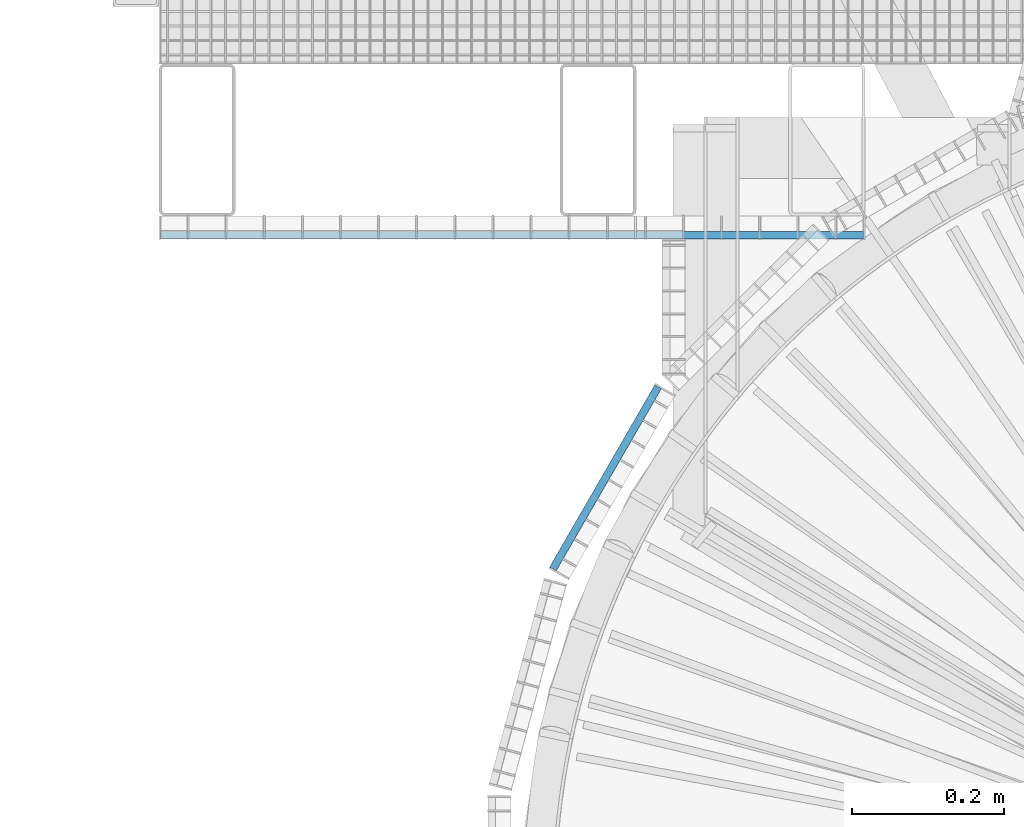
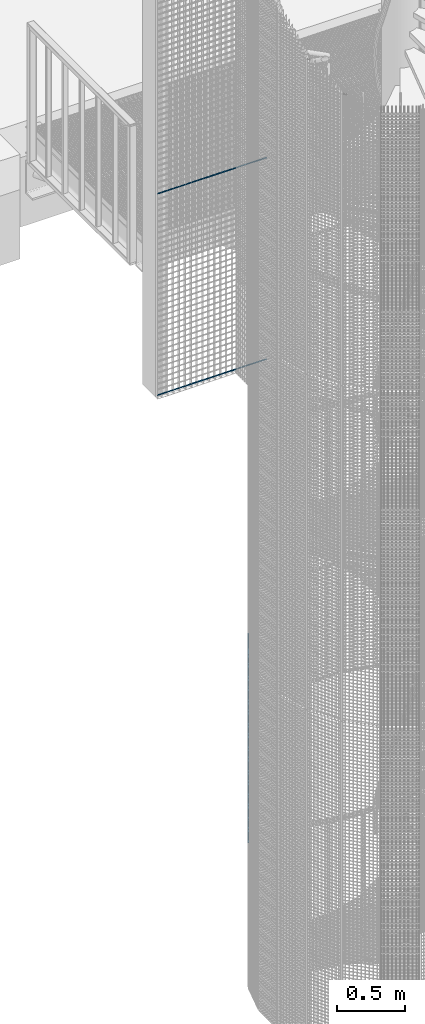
# One storey, part 216 of 1183: 59 beams, 2 elements without a shape of their own.
"""IFC2X3 building model written with IfcOpenShell, lengths in millimetres."""

from ifc_helpers import new_model, si_unit, frame, origin_with_axes, origin_2d_with_axis, place, context, subcontext, project, spatial, rectangle, extrude, material, type_object, element, aggregate, save


model = new_model("IFC2X3")

# Units and contexts
model_context = context("Model", 3, precision=1e-05, world=origin_with_axes())
body_context = subcontext(model_context, "Body", "Model", "MODEL_VIEW")
ifc_project = project(units=[si_unit("LENGTHUNIT", "METRE", prefix="MILLI"), si_unit("AREAUNIT", "SQUARE_METRE"), si_unit("VOLUMEUNIT", "CUBIC_METRE"), si_unit("MASSUNIT", "GRAM", prefix="KILO"), si_unit("TIMEUNIT", "SECOND"), si_unit("PLANEANGLEUNIT", "RADIAN"), si_unit("SOLIDANGLEUNIT", "STERADIAN"), si_unit("THERMODYNAMICTEMPERATUREUNIT", "DEGREE_CELSIUS"), si_unit("LUMINOUSINTENSITYUNIT", "LUMEN")], contexts=[model_context])

# Site, building, storey
site_placement = place(None, origin_with_axes())
site = spatial("IfcSite", under=ifc_project, at=site_placement, Name="Undefined", CompositionType="ELEMENT")
building_placement = place(site_placement, origin_with_axes())
building = spatial("IfcBuilding", under=site, at=building_placement, Name="Undefined", CompositionType="ELEMENT")
storey_placement = place(building_placement, origin_with_axes())
storey = spatial("IfcBuildingStorey", under=building, at=storey_placement, Name="Undefined", CompositionType="ELEMENT", Elevation=0.0)

# Assembly, beams
assembly_1_placement = place(storey_placement, origin_with_axes())
assembly_1 = element("IfcElementAssembly", 1, at=assembly_1_placement, inside=storey, Name="BORDURE", AssemblyPlace="NOTDEFINED", PredefinedType="NOTDEFINED")
ifc_material = material(Name="STEEL/S235JR")
beam_type = type_object("IfcBeamType", Name="PL2*10", PredefinedType="NOTDEFINED")
beam_1_placement = place(assembly_1_placement, frame((-1547.92041016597, 874.994689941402, 7004.998), z_axis=(0.0, -1.0, 0.0), x_axis=(1.0, 0.0, 0.0)))
beam_1 = element("IfcBeam", 2, at=beam_1_placement, type_object=beam_type, material=ifc_material, Name="ENTRETOISE", context=body_context, shape_type="SweptSolid", body=[
    extrude(rectangle(XDim=2.0, YDim=10.0, at=origin_2d_with_axis()), frame((922.0, 0.0, 0.0), z_axis=(-1.0, 0.0, 0.0), x_axis=(0.0, -1.0, 0.0)), (0.0, 0.0, 1.0), 922.0),
])
beam_2_placement = place(assembly_1_placement, frame((-1547.92041016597, 874.994689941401, 5204.998), z_axis=(0.0, -1.0, 0.0), x_axis=(1.0, 0.0, 0.0)))
beam_2 = element("IfcBeam", 3, at=beam_2_placement, type_object=beam_type, material=ifc_material, Name="ENTRETOISE", context=body_context, shape_type="SweptSolid", body=[
    extrude(rectangle(XDim=2.0, YDim=10.0, at=origin_2d_with_axis()), frame((922.0, 0.0, 0.0), z_axis=(-1.0, 0.0, 0.0), x_axis=(0.0, -1.0, 0.0)), (0.0, 0.0, 1.0), 922.0),
])
aggregate(assembly_1, [beam_1, beam_2])

assembly_2_placement = place(storey_placement, origin_with_axes())
assembly_2 = element("IfcElementAssembly", 4, at=assembly_2_placement, inside=storey, Name="BORDURE", AssemblyPlace="NOTDEFINED", PredefinedType="NOTDEFINED")
beam_3_placement = place(assembly_2_placement, frame((-895.303964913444, 676.248044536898, 2970.0), z_axis=(-0.866025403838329, 0.499999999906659, 0.0), x_axis=(-0.49999999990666, -0.866025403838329, 0.0)))
beam_3 = element("IfcBeam", 5, at=beam_3_placement, type_object=beam_type, material=ifc_material, Name="ENTRETOISE", context=body_context, shape_type="SweptSolid", body=[
    extrude(rectangle(XDim=2.0, YDim=10.0, at=origin_2d_with_axis()), frame((275.999999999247, 9.09494701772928e-13, 1.53210777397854e-14), z_axis=(-1.0, 0.0, 0.0), x_axis=(0.0, -1.0, 0.0)), (0.0, 0.0, 1.0), 276.0),
])
beam_4_placement = place(assembly_2_placement, frame((-895.303964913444, 676.248044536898, 2940.0), z_axis=(-0.866025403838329, 0.499999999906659, 0.0), x_axis=(-0.49999999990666, -0.866025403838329, 0.0)))
beam_4 = element("IfcBeam", 6, at=beam_4_placement, type_object=beam_type, material=ifc_material, Name="ENTRETOISE", context=body_context, shape_type="SweptSolid", body=[
    extrude(rectangle(XDim=2.0, YDim=10.0, at=origin_2d_with_axis()), frame((275.999999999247, 9.09494701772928e-13, 1.53210777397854e-14), z_axis=(-1.0, 0.0, 0.0), x_axis=(0.0, -1.0, 0.0)), (0.0, 0.0, 1.0), 276.0),
])
beam_5_placement = place(assembly_2_placement, frame((-895.303964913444, 676.248044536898, 2910.0), z_axis=(-0.866025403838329, 0.499999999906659, 0.0), x_axis=(-0.49999999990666, -0.866025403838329, 0.0)))
beam_5 = element("IfcBeam", 7, at=beam_5_placement, type_object=beam_type, material=ifc_material, Name="ENTRETOISE", context=body_context, shape_type="SweptSolid", body=[
    extrude(rectangle(XDim=2.0, YDim=10.0, at=origin_2d_with_axis()), frame((275.999999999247, 9.09494701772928e-13, 1.53210777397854e-14), z_axis=(-1.0, 0.0, 0.0), x_axis=(0.0, -1.0, 0.0)), (0.0, 0.0, 1.0), 276.0),
])
beam_6_placement = place(assembly_2_placement, frame((-895.303964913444, 676.248044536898, 2880.0), z_axis=(-0.866025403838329, 0.499999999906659, 0.0), x_axis=(-0.49999999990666, -0.866025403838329, 0.0)))
beam_6 = element("IfcBeam", 8, at=beam_6_placement, type_object=beam_type, material=ifc_material, Name="ENTRETOISE", context=body_context, shape_type="SweptSolid", body=[
    extrude(rectangle(XDim=2.0, YDim=10.0, at=origin_2d_with_axis()), frame((275.999999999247, 9.09494701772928e-13, 1.53210777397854e-14), z_axis=(-1.0, 0.0, 0.0), x_axis=(0.0, -1.0, 0.0)), (0.0, 0.0, 1.0), 276.0),
])
beam_7_placement = place(assembly_2_placement, frame((-895.303964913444, 676.248044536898, 2850.0), z_axis=(-0.866025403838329, 0.499999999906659, 0.0), x_axis=(-0.49999999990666, -0.866025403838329, 0.0)))
beam_7 = element("IfcBeam", 9, at=beam_7_placement, type_object=beam_type, material=ifc_material, Name="ENTRETOISE", context=body_context, shape_type="SweptSolid", body=[
    extrude(rectangle(XDim=2.0, YDim=10.0, at=origin_2d_with_axis()), frame((275.999999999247, 9.09494701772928e-13, 1.53210777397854e-14), z_axis=(-1.0, 0.0, 0.0), x_axis=(0.0, -1.0, 0.0)), (0.0, 0.0, 1.0), 276.0),
])
beam_8_placement = place(assembly_2_placement, frame((-895.303964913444, 676.248044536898, 2820.0), z_axis=(-0.866025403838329, 0.499999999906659, 0.0), x_axis=(-0.49999999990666, -0.866025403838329, 0.0)))
beam_8 = element("IfcBeam", 10, at=beam_8_placement, type_object=beam_type, material=ifc_material, Name="ENTRETOISE", context=body_context, shape_type="SweptSolid", body=[
    extrude(rectangle(XDim=2.0, YDim=10.0, at=origin_2d_with_axis()), frame((275.999999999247, 9.09494701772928e-13, 1.53210777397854e-14), z_axis=(-1.0, 0.0, 0.0), x_axis=(0.0, -1.0, 0.0)), (0.0, 0.0, 1.0), 276.0),
])
beam_9_placement = place(assembly_2_placement, frame((-895.303964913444, 676.248044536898, 2790.0), z_axis=(-0.866025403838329, 0.499999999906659, 0.0), x_axis=(-0.49999999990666, -0.866025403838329, 0.0)))
beam_9 = element("IfcBeam", 11, at=beam_9_placement, type_object=beam_type, material=ifc_material, Name="ENTRETOISE", context=body_context, shape_type="SweptSolid", body=[
    extrude(rectangle(XDim=2.0, YDim=10.0, at=origin_2d_with_axis()), frame((275.999999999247, 9.09494701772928e-13, 1.53210777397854e-14), z_axis=(-1.0, 0.0, 0.0), x_axis=(0.0, -1.0, 0.0)), (0.0, 0.0, 1.0), 276.0),
])
beam_10_placement = place(assembly_2_placement, frame((-895.303964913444, 676.248044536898, 2760.0), z_axis=(-0.866025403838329, 0.499999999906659, 0.0), x_axis=(-0.49999999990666, -0.866025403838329, 0.0)))
beam_10 = element("IfcBeam", 12, at=beam_10_placement, type_object=beam_type, material=ifc_material, Name="ENTRETOISE", context=body_context, shape_type="SweptSolid", body=[
    extrude(rectangle(XDim=2.0, YDim=10.0, at=origin_2d_with_axis()), frame((275.999999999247, 9.09494701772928e-13, 1.53210777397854e-14), z_axis=(-1.0, 0.0, 0.0), x_axis=(0.0, -1.0, 0.0)), (0.0, 0.0, 1.0), 276.0),
])
beam_11_placement = place(assembly_2_placement, frame((-895.303964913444, 676.248044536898, 2730.0), z_axis=(-0.866025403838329, 0.499999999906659, 0.0), x_axis=(-0.49999999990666, -0.866025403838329, 0.0)))
beam_11 = element("IfcBeam", 13, at=beam_11_placement, type_object=beam_type, material=ifc_material, Name="ENTRETOISE", context=body_context, shape_type="SweptSolid", body=[
    extrude(rectangle(XDim=2.0, YDim=10.0, at=origin_2d_with_axis()), frame((275.999999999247, 9.09494701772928e-13, 1.53210777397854e-14), z_axis=(-1.0, 0.0, 0.0), x_axis=(0.0, -1.0, 0.0)), (0.0, 0.0, 1.0), 276.0),
])
beam_12_placement = place(assembly_2_placement, frame((-895.303964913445, 676.248044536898, 2700.0), z_axis=(-0.866025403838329, 0.499999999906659, 0.0), x_axis=(-0.49999999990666, -0.866025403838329, 0.0)))
beam_12 = element("IfcBeam", 14, at=beam_12_placement, type_object=beam_type, material=ifc_material, Name="ENTRETOISE", context=body_context, shape_type="SweptSolid", body=[
    extrude(rectangle(XDim=2.0, YDim=10.0, at=origin_2d_with_axis()), frame((275.999999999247, 9.09494701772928e-13, 1.53210777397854e-14), z_axis=(-1.0, 0.0, 0.0), x_axis=(0.0, -1.0, 0.0)), (0.0, 0.0, 1.0), 276.0),
])
beam_13_placement = place(assembly_2_placement, frame((-895.303964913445, 676.248044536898, 2670.0), z_axis=(-0.866025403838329, 0.499999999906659, 0.0), x_axis=(-0.49999999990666, -0.866025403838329, 0.0)))
beam_13 = element("IfcBeam", 15, at=beam_13_placement, type_object=beam_type, material=ifc_material, Name="ENTRETOISE", context=body_context, shape_type="SweptSolid", body=[
    extrude(rectangle(XDim=2.0, YDim=10.0, at=origin_2d_with_axis()), frame((275.999999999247, 9.09494701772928e-13, 1.53210777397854e-14), z_axis=(-1.0, 0.0, 0.0), x_axis=(0.0, -1.0, 0.0)), (0.0, 0.0, 1.0), 276.0),
])
beam_14_placement = place(assembly_2_placement, frame((-895.303964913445, 676.248044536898, 2640.0), z_axis=(-0.866025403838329, 0.499999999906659, 0.0), x_axis=(-0.49999999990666, -0.866025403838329, 0.0)))
beam_14 = element("IfcBeam", 16, at=beam_14_placement, type_object=beam_type, material=ifc_material, Name="ENTRETOISE", context=body_context, shape_type="SweptSolid", body=[
    extrude(rectangle(XDim=2.0, YDim=10.0, at=origin_2d_with_axis()), frame((275.999999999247, 9.09494701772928e-13, 1.53210777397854e-14), z_axis=(-1.0, 0.0, 0.0), x_axis=(0.0, -1.0, 0.0)), (0.0, 0.0, 1.0), 276.0),
])
beam_15_placement = place(assembly_2_placement, frame((-895.303964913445, 676.248044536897, 2610.0), z_axis=(-0.866025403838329, 0.499999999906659, 0.0), x_axis=(-0.49999999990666, -0.866025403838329, 0.0)))
beam_15 = element("IfcBeam", 17, at=beam_15_placement, type_object=beam_type, material=ifc_material, Name="ENTRETOISE", context=body_context, shape_type="SweptSolid", body=[
    extrude(rectangle(XDim=2.0, YDim=10.0, at=origin_2d_with_axis()), frame((275.999999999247, 9.09494701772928e-13, 1.53210777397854e-14), z_axis=(-1.0, 0.0, 0.0), x_axis=(0.0, -1.0, 0.0)), (0.0, 0.0, 1.0), 276.0),
])
beam_16_placement = place(assembly_2_placement, frame((-895.303964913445, 676.248044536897, 2580.0), z_axis=(-0.866025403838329, 0.499999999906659, 0.0), x_axis=(-0.49999999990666, -0.866025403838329, 0.0)))
beam_16 = element("IfcBeam", 18, at=beam_16_placement, type_object=beam_type, material=ifc_material, Name="ENTRETOISE", context=body_context, shape_type="SweptSolid", body=[
    extrude(rectangle(XDim=2.0, YDim=10.0, at=origin_2d_with_axis()), frame((275.999999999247, 9.09494701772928e-13, 1.53210777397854e-14), z_axis=(-1.0, 0.0, 0.0), x_axis=(0.0, -1.0, 0.0)), (0.0, 0.0, 1.0), 276.0),
])
beam_17_placement = place(assembly_2_placement, frame((-895.303964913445, 676.248044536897, 2550.0), z_axis=(-0.866025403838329, 0.499999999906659, 0.0), x_axis=(-0.49999999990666, -0.866025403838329, 0.0)))
beam_17 = element("IfcBeam", 19, at=beam_17_placement, type_object=beam_type, material=ifc_material, Name="ENTRETOISE", context=body_context, shape_type="SweptSolid", body=[
    extrude(rectangle(XDim=2.0, YDim=10.0, at=origin_2d_with_axis()), frame((275.999999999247, 9.09494701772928e-13, 1.53210777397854e-14), z_axis=(-1.0, 0.0, 0.0), x_axis=(0.0, -1.0, 0.0)), (0.0, 0.0, 1.0), 276.0),
])
beam_18_placement = place(assembly_2_placement, frame((-895.303964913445, 676.248044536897, 2520.0), z_axis=(-0.866025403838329, 0.499999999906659, 0.0), x_axis=(-0.49999999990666, -0.866025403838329, 0.0)))
beam_18 = element("IfcBeam", 20, at=beam_18_placement, type_object=beam_type, material=ifc_material, Name="ENTRETOISE", context=body_context, shape_type="SweptSolid", body=[
    extrude(rectangle(XDim=2.0, YDim=10.0, at=origin_2d_with_axis()), frame((275.999999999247, 9.09494701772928e-13, 1.53210777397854e-14), z_axis=(-1.0, 0.0, 0.0), x_axis=(0.0, -1.0, 0.0)), (0.0, 0.0, 1.0), 276.0),
])
beam_19_placement = place(assembly_2_placement, frame((-895.303964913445, 676.248044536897, 2490.0), z_axis=(-0.866025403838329, 0.499999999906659, 0.0), x_axis=(-0.49999999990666, -0.866025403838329, 0.0)))
beam_19 = element("IfcBeam", 21, at=beam_19_placement, type_object=beam_type, material=ifc_material, Name="ENTRETOISE", context=body_context, shape_type="SweptSolid", body=[
    extrude(rectangle(XDim=2.0, YDim=10.0, at=origin_2d_with_axis()), frame((275.999999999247, 9.09494701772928e-13, 1.53210777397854e-14), z_axis=(-1.0, 0.0, 0.0), x_axis=(0.0, -1.0, 0.0)), (0.0, 0.0, 1.0), 276.0),
])
beam_20_placement = place(assembly_2_placement, frame((-895.303964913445, 676.248044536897, 2460.0), z_axis=(-0.866025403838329, 0.499999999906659, 0.0), x_axis=(-0.49999999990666, -0.866025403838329, 0.0)))
beam_20 = element("IfcBeam", 22, at=beam_20_placement, type_object=beam_type, material=ifc_material, Name="ENTRETOISE", context=body_context, shape_type="SweptSolid", body=[
    extrude(rectangle(XDim=2.0, YDim=10.0, at=origin_2d_with_axis()), frame((275.999999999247, 9.09494701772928e-13, 1.53210777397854e-14), z_axis=(-1.0, 0.0, 0.0), x_axis=(0.0, -1.0, 0.0)), (0.0, 0.0, 1.0), 276.0),
])
beam_21_placement = place(assembly_2_placement, frame((-895.303964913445, 676.248044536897, 2430.0), z_axis=(-0.866025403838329, 0.499999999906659, 0.0), x_axis=(-0.49999999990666, -0.866025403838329, 0.0)))
beam_21 = element("IfcBeam", 23, at=beam_21_placement, type_object=beam_type, material=ifc_material, Name="ENTRETOISE", context=body_context, shape_type="SweptSolid", body=[
    extrude(rectangle(XDim=2.0, YDim=10.0, at=origin_2d_with_axis()), frame((275.999999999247, 9.09494701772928e-13, 1.53210777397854e-14), z_axis=(-1.0, 0.0, 0.0), x_axis=(0.0, -1.0, 0.0)), (0.0, 0.0, 1.0), 276.0),
])
beam_22_placement = place(assembly_2_placement, frame((-895.303964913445, 676.248044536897, 2400.0), z_axis=(-0.866025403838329, 0.499999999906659, 0.0), x_axis=(-0.49999999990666, -0.866025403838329, 0.0)))
beam_22 = element("IfcBeam", 24, at=beam_22_placement, type_object=beam_type, material=ifc_material, Name="ENTRETOISE", context=body_context, shape_type="SweptSolid", body=[
    extrude(rectangle(XDim=2.0, YDim=10.0, at=origin_2d_with_axis()), frame((275.999999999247, 9.09494701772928e-13, 1.53210777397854e-14), z_axis=(-1.0, 0.0, 0.0), x_axis=(0.0, -1.0, 0.0)), (0.0, 0.0, 1.0), 276.0),
])
beam_23_placement = place(assembly_2_placement, frame((-895.303964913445, 676.248044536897, 2370.0), z_axis=(-0.866025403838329, 0.499999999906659, 0.0), x_axis=(-0.49999999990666, -0.866025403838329, 0.0)))
beam_23 = element("IfcBeam", 25, at=beam_23_placement, type_object=beam_type, material=ifc_material, Name="ENTRETOISE", context=body_context, shape_type="SweptSolid", body=[
    extrude(rectangle(XDim=2.0, YDim=10.0, at=origin_2d_with_axis()), frame((275.999999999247, 9.09494701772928e-13, 1.53210777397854e-14), z_axis=(-1.0, 0.0, 0.0), x_axis=(0.0, -1.0, 0.0)), (0.0, 0.0, 1.0), 276.0),
])
beam_24_placement = place(assembly_2_placement, frame((-895.303964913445, 676.248044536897, 2340.0), z_axis=(-0.866025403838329, 0.499999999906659, 0.0), x_axis=(-0.49999999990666, -0.866025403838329, 0.0)))
beam_24 = element("IfcBeam", 26, at=beam_24_placement, type_object=beam_type, material=ifc_material, Name="ENTRETOISE", context=body_context, shape_type="SweptSolid", body=[
    extrude(rectangle(XDim=2.0, YDim=10.0, at=origin_2d_with_axis()), frame((275.999999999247, 9.09494701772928e-13, 1.53210777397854e-14), z_axis=(-1.0, 0.0, 0.0), x_axis=(0.0, -1.0, 0.0)), (0.0, 0.0, 1.0), 276.0),
])
beam_25_placement = place(assembly_2_placement, frame((-895.303964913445, 676.248044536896, 2310.0), z_axis=(-0.866025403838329, 0.499999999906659, 0.0), x_axis=(-0.49999999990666, -0.866025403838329, 0.0)))
beam_25 = element("IfcBeam", 27, at=beam_25_placement, type_object=beam_type, material=ifc_material, Name="ENTRETOISE", context=body_context, shape_type="SweptSolid", body=[
    extrude(rectangle(XDim=2.0, YDim=10.0, at=origin_2d_with_axis()), frame((275.999999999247, 9.09494701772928e-13, 1.53210777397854e-14), z_axis=(-1.0, 0.0, 0.0), x_axis=(0.0, -1.0, 0.0)), (0.0, 0.0, 1.0), 276.0),
])
beam_26_placement = place(assembly_2_placement, frame((-895.303964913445, 676.248044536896, 2280.0), z_axis=(-0.866025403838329, 0.499999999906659, 0.0), x_axis=(-0.49999999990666, -0.866025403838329, 0.0)))
beam_26 = element("IfcBeam", 28, at=beam_26_placement, type_object=beam_type, material=ifc_material, Name="ENTRETOISE", context=body_context, shape_type="SweptSolid", body=[
    extrude(rectangle(XDim=2.0, YDim=10.0, at=origin_2d_with_axis()), frame((275.999999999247, 9.09494701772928e-13, 1.53210777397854e-14), z_axis=(-1.0, 0.0, 0.0), x_axis=(0.0, -1.0, 0.0)), (0.0, 0.0, 1.0), 276.0),
])
beam_27_placement = place(assembly_2_placement, frame((-895.303964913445, 676.248044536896, 2250.0), z_axis=(-0.866025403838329, 0.499999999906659, 0.0), x_axis=(-0.49999999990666, -0.866025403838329, 0.0)))
beam_27 = element("IfcBeam", 29, at=beam_27_placement, type_object=beam_type, material=ifc_material, Name="ENTRETOISE", context=body_context, shape_type="SweptSolid", body=[
    extrude(rectangle(XDim=2.0, YDim=10.0, at=origin_2d_with_axis()), frame((275.999999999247, 9.09494701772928e-13, 1.53210777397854e-14), z_axis=(-1.0, 0.0, 0.0), x_axis=(0.0, -1.0, 0.0)), (0.0, 0.0, 1.0), 276.0),
])
beam_28_placement = place(assembly_2_placement, frame((-895.303964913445, 676.248044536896, 2220.0), z_axis=(-0.866025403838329, 0.499999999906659, 0.0), x_axis=(-0.49999999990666, -0.866025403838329, 0.0)))
beam_28 = element("IfcBeam", 30, at=beam_28_placement, type_object=beam_type, material=ifc_material, Name="ENTRETOISE", context=body_context, shape_type="SweptSolid", body=[
    extrude(rectangle(XDim=2.0, YDim=10.0, at=origin_2d_with_axis()), frame((275.999999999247, 9.09494701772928e-13, 1.53210777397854e-14), z_axis=(-1.0, 0.0, 0.0), x_axis=(0.0, -1.0, 0.0)), (0.0, 0.0, 1.0), 276.0),
])
beam_29_placement = place(assembly_2_placement, frame((-895.303964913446, 676.248044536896, 2190.0), z_axis=(-0.866025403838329, 0.499999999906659, 0.0), x_axis=(-0.49999999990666, -0.866025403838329, 0.0)))
beam_29 = element("IfcBeam", 31, at=beam_29_placement, type_object=beam_type, material=ifc_material, Name="ENTRETOISE", context=body_context, shape_type="SweptSolid", body=[
    extrude(rectangle(XDim=2.0, YDim=10.0, at=origin_2d_with_axis()), frame((275.999999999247, 9.09494701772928e-13, 1.53210777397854e-14), z_axis=(-1.0, 0.0, 0.0), x_axis=(0.0, -1.0, 0.0)), (0.0, 0.0, 1.0), 276.0),
])
beam_30_placement = place(assembly_2_placement, frame((-895.303964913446, 676.248044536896, 2160.0), z_axis=(-0.866025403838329, 0.499999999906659, 0.0), x_axis=(-0.49999999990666, -0.866025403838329, 0.0)))
beam_30 = element("IfcBeam", 32, at=beam_30_placement, type_object=beam_type, material=ifc_material, Name="ENTRETOISE", context=body_context, shape_type="SweptSolid", body=[
    extrude(rectangle(XDim=2.0, YDim=10.0, at=origin_2d_with_axis()), frame((275.999999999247, 9.09494701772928e-13, 1.53210777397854e-14), z_axis=(-1.0, 0.0, 0.0), x_axis=(0.0, -1.0, 0.0)), (0.0, 0.0, 1.0), 276.0),
])
beam_31_placement = place(assembly_2_placement, frame((-895.303964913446, 676.248044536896, 2130.0), z_axis=(-0.866025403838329, 0.499999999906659, 0.0), x_axis=(-0.49999999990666, -0.866025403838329, 0.0)))
beam_31 = element("IfcBeam", 33, at=beam_31_placement, type_object=beam_type, material=ifc_material, Name="ENTRETOISE", context=body_context, shape_type="SweptSolid", body=[
    extrude(rectangle(XDim=2.0, YDim=10.0, at=origin_2d_with_axis()), frame((275.999999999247, 9.09494701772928e-13, 1.53210777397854e-14), z_axis=(-1.0, 0.0, 0.0), x_axis=(0.0, -1.0, 0.0)), (0.0, 0.0, 1.0), 276.0),
])
beam_32_placement = place(assembly_2_placement, frame((-895.303964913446, 676.248044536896, 2100.0), z_axis=(-0.866025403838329, 0.499999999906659, 0.0), x_axis=(-0.49999999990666, -0.866025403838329, 0.0)))
beam_32 = element("IfcBeam", 34, at=beam_32_placement, type_object=beam_type, material=ifc_material, Name="ENTRETOISE", context=body_context, shape_type="SweptSolid", body=[
    extrude(rectangle(XDim=2.0, YDim=10.0, at=origin_2d_with_axis()), frame((275.999999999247, 9.09494701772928e-13, 1.53210777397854e-14), z_axis=(-1.0, 0.0, 0.0), x_axis=(0.0, -1.0, 0.0)), (0.0, 0.0, 1.0), 276.0),
])
beam_33_placement = place(assembly_2_placement, frame((-895.303964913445, 676.248044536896, 2070.0), z_axis=(-0.866025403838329, 0.499999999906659, 0.0), x_axis=(-0.49999999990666, -0.866025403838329, 0.0)))
beam_33 = element("IfcBeam", 35, at=beam_33_placement, type_object=beam_type, material=ifc_material, Name="ENTRETOISE", context=body_context, shape_type="SweptSolid", body=[
    extrude(rectangle(XDim=2.0, YDim=10.0, at=origin_2d_with_axis()), frame((275.999999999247, 9.09494701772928e-13, 1.53210777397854e-14), z_axis=(-1.0, 0.0, 0.0), x_axis=(0.0, -1.0, 0.0)), (0.0, 0.0, 1.0), 276.0),
])
beam_34_placement = place(assembly_2_placement, frame((-895.303964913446, 676.248044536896, 2040.0), z_axis=(-0.866025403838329, 0.499999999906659, 0.0), x_axis=(-0.49999999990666, -0.866025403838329, 0.0)))
beam_34 = element("IfcBeam", 36, at=beam_34_placement, type_object=beam_type, material=ifc_material, Name="ENTRETOISE", context=body_context, shape_type="SweptSolid", body=[
    extrude(rectangle(XDim=2.0, YDim=10.0, at=origin_2d_with_axis()), frame((275.999999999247, 9.09494701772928e-13, 1.53210777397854e-14), z_axis=(-1.0, 0.0, 0.0), x_axis=(0.0, -1.0, 0.0)), (0.0, 0.0, 1.0), 276.0),
])
beam_35_placement = place(assembly_2_placement, frame((-895.303964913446, 676.248044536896, 2010.0), z_axis=(-0.866025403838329, 0.499999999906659, 0.0), x_axis=(-0.49999999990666, -0.866025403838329, 0.0)))
beam_35 = element("IfcBeam", 37, at=beam_35_placement, type_object=beam_type, material=ifc_material, Name="ENTRETOISE", context=body_context, shape_type="SweptSolid", body=[
    extrude(rectangle(XDim=2.0, YDim=10.0, at=origin_2d_with_axis()), frame((275.999999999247, 9.09494701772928e-13, 1.53210777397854e-14), z_axis=(-1.0, 0.0, 0.0), x_axis=(0.0, -1.0, 0.0)), (0.0, 0.0, 1.0), 276.0),
])
beam_36_placement = place(assembly_2_placement, frame((-895.303964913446, 676.248044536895, 1980.0), z_axis=(-0.866025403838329, 0.499999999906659, 0.0), x_axis=(-0.49999999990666, -0.866025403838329, 0.0)))
beam_36 = element("IfcBeam", 38, at=beam_36_placement, type_object=beam_type, material=ifc_material, Name="ENTRETOISE", context=body_context, shape_type="SweptSolid", body=[
    extrude(rectangle(XDim=2.0, YDim=10.0, at=origin_2d_with_axis()), frame((275.999999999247, 9.09494701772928e-13, 1.53210777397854e-14), z_axis=(-1.0, 0.0, 0.0), x_axis=(0.0, -1.0, 0.0)), (0.0, 0.0, 1.0), 276.0),
])
beam_37_placement = place(assembly_2_placement, frame((-895.303964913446, 676.248044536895, 1950.0), z_axis=(-0.866025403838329, 0.499999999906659, 0.0), x_axis=(-0.49999999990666, -0.866025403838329, 0.0)))
beam_37 = element("IfcBeam", 39, at=beam_37_placement, type_object=beam_type, material=ifc_material, Name="ENTRETOISE", context=body_context, shape_type="SweptSolid", body=[
    extrude(rectangle(XDim=2.0, YDim=10.0, at=origin_2d_with_axis()), frame((275.999999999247, 9.09494701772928e-13, 1.53210777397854e-14), z_axis=(-1.0, 0.0, 0.0), x_axis=(0.0, -1.0, 0.0)), (0.0, 0.0, 1.0), 276.0),
])
beam_38_placement = place(assembly_2_placement, frame((-895.303964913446, 676.248044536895, 1920.0), z_axis=(-0.866025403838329, 0.499999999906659, 0.0), x_axis=(-0.49999999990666, -0.866025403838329, 0.0)))
beam_38 = element("IfcBeam", 40, at=beam_38_placement, type_object=beam_type, material=ifc_material, Name="ENTRETOISE", context=body_context, shape_type="SweptSolid", body=[
    extrude(rectangle(XDim=2.0, YDim=10.0, at=origin_2d_with_axis()), frame((275.999999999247, 9.09494701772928e-13, 1.53210777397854e-14), z_axis=(-1.0, 0.0, 0.0), x_axis=(0.0, -1.0, 0.0)), (0.0, 0.0, 1.0), 276.0),
])
beam_39_placement = place(assembly_2_placement, frame((-895.303964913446, 676.248044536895, 1890.0), z_axis=(-0.866025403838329, 0.499999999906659, 0.0), x_axis=(-0.49999999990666, -0.866025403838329, 0.0)))
beam_39 = element("IfcBeam", 41, at=beam_39_placement, type_object=beam_type, material=ifc_material, Name="ENTRETOISE", context=body_context, shape_type="SweptSolid", body=[
    extrude(rectangle(XDim=2.0, YDim=10.0, at=origin_2d_with_axis()), frame((275.999999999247, 9.09494701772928e-13, 1.53210777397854e-14), z_axis=(-1.0, 0.0, 0.0), x_axis=(0.0, -1.0, 0.0)), (0.0, 0.0, 1.0), 276.0),
])
beam_40_placement = place(assembly_2_placement, frame((-895.303964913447, 676.248044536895, 1860.0), z_axis=(-0.866025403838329, 0.499999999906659, 0.0), x_axis=(-0.49999999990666, -0.866025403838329, 0.0)))
beam_40 = element("IfcBeam", 42, at=beam_40_placement, type_object=beam_type, material=ifc_material, Name="ENTRETOISE", context=body_context, shape_type="SweptSolid", body=[
    extrude(rectangle(XDim=2.0, YDim=10.0, at=origin_2d_with_axis()), frame((275.999999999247, 9.09494701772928e-13, 1.53210777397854e-14), z_axis=(-1.0, 0.0, 0.0), x_axis=(0.0, -1.0, 0.0)), (0.0, 0.0, 1.0), 276.0),
])
beam_41_placement = place(assembly_2_placement, frame((-895.303964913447, 676.248044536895, 1830.0), z_axis=(-0.866025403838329, 0.499999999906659, 0.0), x_axis=(-0.49999999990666, -0.866025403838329, 0.0)))
beam_41 = element("IfcBeam", 43, at=beam_41_placement, type_object=beam_type, material=ifc_material, Name="ENTRETOISE", context=body_context, shape_type="SweptSolid", body=[
    extrude(rectangle(XDim=2.0, YDim=10.0, at=origin_2d_with_axis()), frame((275.999999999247, 9.09494701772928e-13, 1.53210777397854e-14), z_axis=(-1.0, 0.0, 0.0), x_axis=(0.0, -1.0, 0.0)), (0.0, 0.0, 1.0), 276.0),
])
beam_42_placement = place(assembly_2_placement, frame((-895.303964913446, 676.248044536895, 1800.0), z_axis=(-0.866025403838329, 0.499999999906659, 0.0), x_axis=(-0.49999999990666, -0.866025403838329, 0.0)))
beam_42 = element("IfcBeam", 44, at=beam_42_placement, type_object=beam_type, material=ifc_material, Name="ENTRETOISE", context=body_context, shape_type="SweptSolid", body=[
    extrude(rectangle(XDim=2.0, YDim=10.0, at=origin_2d_with_axis()), frame((275.999999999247, 9.09494701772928e-13, 1.53210777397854e-14), z_axis=(-1.0, 0.0, 0.0), x_axis=(0.0, -1.0, 0.0)), (0.0, 0.0, 1.0), 276.0),
])
beam_43_placement = place(assembly_2_placement, frame((-895.303964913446, 676.248044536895, 1770.0), z_axis=(-0.866025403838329, 0.499999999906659, 0.0), x_axis=(-0.49999999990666, -0.866025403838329, 0.0)))
beam_43 = element("IfcBeam", 45, at=beam_43_placement, type_object=beam_type, material=ifc_material, Name="ENTRETOISE", context=body_context, shape_type="SweptSolid", body=[
    extrude(rectangle(XDim=2.0, YDim=10.0, at=origin_2d_with_axis()), frame((275.999999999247, 9.09494701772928e-13, 1.53210777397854e-14), z_axis=(-1.0, 0.0, 0.0), x_axis=(0.0, -1.0, 0.0)), (0.0, 0.0, 1.0), 276.0),
])
beam_44_placement = place(assembly_2_placement, frame((-895.303964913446, 676.248044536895, 1740.0), z_axis=(-0.866025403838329, 0.499999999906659, 0.0), x_axis=(-0.49999999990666, -0.866025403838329, 0.0)))
beam_44 = element("IfcBeam", 46, at=beam_44_placement, type_object=beam_type, material=ifc_material, Name="ENTRETOISE", context=body_context, shape_type="SweptSolid", body=[
    extrude(rectangle(XDim=2.0, YDim=10.0, at=origin_2d_with_axis()), frame((275.999999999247, 9.09494701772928e-13, 1.53210777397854e-14), z_axis=(-1.0, 0.0, 0.0), x_axis=(0.0, -1.0, 0.0)), (0.0, 0.0, 1.0), 276.0),
])
beam_45_placement = place(assembly_2_placement, frame((-895.303964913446, 676.248044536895, 1710.0), z_axis=(-0.866025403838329, 0.499999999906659, 0.0), x_axis=(-0.49999999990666, -0.866025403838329, 0.0)))
beam_45 = element("IfcBeam", 47, at=beam_45_placement, type_object=beam_type, material=ifc_material, Name="ENTRETOISE", context=body_context, shape_type="SweptSolid", body=[
    extrude(rectangle(XDim=2.0, YDim=10.0, at=origin_2d_with_axis()), frame((275.999999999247, 9.09494701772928e-13, 1.53210777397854e-14), z_axis=(-1.0, 0.0, 0.0), x_axis=(0.0, -1.0, 0.0)), (0.0, 0.0, 1.0), 276.0),
])
beam_46_placement = place(assembly_2_placement, frame((-895.303964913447, 676.248044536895, 1680.0), z_axis=(-0.866025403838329, 0.499999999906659, 0.0), x_axis=(-0.49999999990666, -0.866025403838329, 0.0)))
beam_46 = element("IfcBeam", 48, at=beam_46_placement, type_object=beam_type, material=ifc_material, Name="ENTRETOISE", context=body_context, shape_type="SweptSolid", body=[
    extrude(rectangle(XDim=2.0, YDim=10.0, at=origin_2d_with_axis()), frame((275.999999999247, 9.09494701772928e-13, 1.53210777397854e-14), z_axis=(-1.0, 0.0, 0.0), x_axis=(0.0, -1.0, 0.0)), (0.0, 0.0, 1.0), 276.0),
])
beam_47_placement = place(assembly_2_placement, frame((-895.303964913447, 676.248044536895, 1650.0), z_axis=(-0.866025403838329, 0.499999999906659, 0.0), x_axis=(-0.49999999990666, -0.866025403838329, 0.0)))
beam_47 = element("IfcBeam", 49, at=beam_47_placement, type_object=beam_type, material=ifc_material, Name="ENTRETOISE", context=body_context, shape_type="SweptSolid", body=[
    extrude(rectangle(XDim=2.0, YDim=10.0, at=origin_2d_with_axis()), frame((275.999999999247, 9.09494701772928e-13, 1.53210777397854e-14), z_axis=(-1.0, 0.0, 0.0), x_axis=(0.0, -1.0, 0.0)), (0.0, 0.0, 1.0), 276.0),
])
beam_48_placement = place(assembly_2_placement, frame((-895.303964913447, 676.248044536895, 1620.0), z_axis=(-0.866025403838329, 0.499999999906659, 0.0), x_axis=(-0.49999999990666, -0.866025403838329, 0.0)))
beam_48 = element("IfcBeam", 50, at=beam_48_placement, type_object=beam_type, material=ifc_material, Name="ENTRETOISE", context=body_context, shape_type="SweptSolid", body=[
    extrude(rectangle(XDim=2.0, YDim=10.0, at=origin_2d_with_axis()), frame((275.999999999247, 9.09494701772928e-13, 1.53210777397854e-14), z_axis=(-1.0, 0.0, 0.0), x_axis=(0.0, -1.0, 0.0)), (0.0, 0.0, 1.0), 276.0),
])
beam_49_placement = place(assembly_2_placement, frame((-895.303964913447, 676.248044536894, 1590.0), z_axis=(-0.866025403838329, 0.499999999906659, 0.0), x_axis=(-0.49999999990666, -0.866025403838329, 0.0)))
beam_49 = element("IfcBeam", 51, at=beam_49_placement, type_object=beam_type, material=ifc_material, Name="ENTRETOISE", context=body_context, shape_type="SweptSolid", body=[
    extrude(rectangle(XDim=2.0, YDim=10.0, at=origin_2d_with_axis()), frame((275.999999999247, 9.09494701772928e-13, 1.53210777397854e-14), z_axis=(-1.0, 0.0, 0.0), x_axis=(0.0, -1.0, 0.0)), (0.0, 0.0, 1.0), 276.0),
])
beam_50_placement = place(assembly_2_placement, frame((-895.303964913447, 676.248044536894, 1560.0), z_axis=(-0.866025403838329, 0.499999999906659, 0.0), x_axis=(-0.49999999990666, -0.866025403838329, 0.0)))
beam_50 = element("IfcBeam", 52, at=beam_50_placement, type_object=beam_type, material=ifc_material, Name="ENTRETOISE", context=body_context, shape_type="SweptSolid", body=[
    extrude(rectangle(XDim=2.0, YDim=10.0, at=origin_2d_with_axis()), frame((275.999999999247, 9.09494701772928e-13, 1.53210777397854e-14), z_axis=(-1.0, 0.0, 0.0), x_axis=(0.0, -1.0, 0.0)), (0.0, 0.0, 1.0), 276.0),
])
beam_51_placement = place(assembly_2_placement, frame((-895.303964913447, 676.248044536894, 1530.0), z_axis=(-0.866025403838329, 0.499999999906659, 0.0), x_axis=(-0.49999999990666, -0.866025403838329, 0.0)))
beam_51 = element("IfcBeam", 53, at=beam_51_placement, type_object=beam_type, material=ifc_material, Name="ENTRETOISE", context=body_context, shape_type="SweptSolid", body=[
    extrude(rectangle(XDim=2.0, YDim=10.0, at=origin_2d_with_axis()), frame((275.999999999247, 9.09494701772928e-13, 1.53210777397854e-14), z_axis=(-1.0, 0.0, 0.0), x_axis=(0.0, -1.0, 0.0)), (0.0, 0.0, 1.0), 276.0),
])
beam_52_placement = place(assembly_2_placement, frame((-895.303964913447, 676.248044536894, 1500.0), z_axis=(-0.866025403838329, 0.499999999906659, 0.0), x_axis=(-0.49999999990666, -0.866025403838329, 0.0)))
beam_52 = element("IfcBeam", 54, at=beam_52_placement, type_object=beam_type, material=ifc_material, Name="ENTRETOISE", context=body_context, shape_type="SweptSolid", body=[
    extrude(rectangle(XDim=2.0, YDim=10.0, at=origin_2d_with_axis()), frame((275.999999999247, 9.09494701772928e-13, 1.53210777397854e-14), z_axis=(-1.0, 0.0, 0.0), x_axis=(0.0, -1.0, 0.0)), (0.0, 0.0, 1.0), 276.0),
])
beam_53_placement = place(assembly_2_placement, frame((-895.303964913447, 676.248044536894, 1470.0), z_axis=(-0.866025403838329, 0.499999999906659, 0.0), x_axis=(-0.49999999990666, -0.866025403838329, 0.0)))
beam_53 = element("IfcBeam", 55, at=beam_53_placement, type_object=beam_type, material=ifc_material, Name="ENTRETOISE", context=body_context, shape_type="SweptSolid", body=[
    extrude(rectangle(XDim=2.0, YDim=10.0, at=origin_2d_with_axis()), frame((275.999999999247, 9.09494701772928e-13, 1.53210777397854e-14), z_axis=(-1.0, 0.0, 0.0), x_axis=(0.0, -1.0, 0.0)), (0.0, 0.0, 1.0), 276.0),
])
beam_54_placement = place(assembly_2_placement, frame((-895.303964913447, 676.248044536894, 1440.0), z_axis=(-0.866025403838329, 0.499999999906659, 0.0), x_axis=(-0.49999999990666, -0.866025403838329, 0.0)))
beam_54 = element("IfcBeam", 56, at=beam_54_placement, type_object=beam_type, material=ifc_material, Name="ENTRETOISE", context=body_context, shape_type="SweptSolid", body=[
    extrude(rectangle(XDim=2.0, YDim=10.0, at=origin_2d_with_axis()), frame((275.999999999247, 9.09494701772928e-13, 1.53210777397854e-14), z_axis=(-1.0, 0.0, 0.0), x_axis=(0.0, -1.0, 0.0)), (0.0, 0.0, 1.0), 276.0),
])
beam_55_placement = place(assembly_2_placement, frame((-895.303964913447, 676.248044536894, 1410.0), z_axis=(-0.866025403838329, 0.499999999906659, 0.0), x_axis=(-0.49999999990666, -0.866025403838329, 0.0)))
beam_55 = element("IfcBeam", 57, at=beam_55_placement, type_object=beam_type, material=ifc_material, Name="ENTRETOISE", context=body_context, shape_type="SweptSolid", body=[
    extrude(rectangle(XDim=2.0, YDim=10.0, at=origin_2d_with_axis()), frame((275.999999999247, 9.09494701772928e-13, 1.53210777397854e-14), z_axis=(-1.0, 0.0, 0.0), x_axis=(0.0, -1.0, 0.0)), (0.0, 0.0, 1.0), 276.0),
])
beam_56_placement = place(assembly_2_placement, frame((-895.303964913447, 676.248044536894, 1380.0), z_axis=(-0.866025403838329, 0.499999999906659, 0.0), x_axis=(-0.49999999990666, -0.866025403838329, 0.0)))
beam_56 = element("IfcBeam", 58, at=beam_56_placement, type_object=beam_type, material=ifc_material, Name="ENTRETOISE", context=body_context, shape_type="SweptSolid", body=[
    extrude(rectangle(XDim=2.0, YDim=10.0, at=origin_2d_with_axis()), frame((275.999999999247, 9.09494701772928e-13, 1.53210777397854e-14), z_axis=(-1.0, 0.0, 0.0), x_axis=(0.0, -1.0, 0.0)), (0.0, 0.0, 1.0), 276.0),
])
beam_57_placement = place(assembly_2_placement, frame((-895.303964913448, 676.248044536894, 1350.0), z_axis=(-0.866025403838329, 0.499999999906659, 0.0), x_axis=(-0.49999999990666, -0.866025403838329, 0.0)))
beam_57 = element("IfcBeam", 59, at=beam_57_placement, type_object=beam_type, material=ifc_material, Name="ENTRETOISE", context=body_context, shape_type="SweptSolid", body=[
    extrude(rectangle(XDim=2.0, YDim=10.0, at=origin_2d_with_axis()), frame((275.999999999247, 9.09494701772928e-13, 1.53210777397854e-14), z_axis=(-1.0, 0.0, 0.0), x_axis=(0.0, -1.0, 0.0)), (0.0, 0.0, 1.0), 276.0),
])
beam_58_placement = place(assembly_2_placement, frame((-895.303964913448, 676.248044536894, 1320.0), z_axis=(-0.866025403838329, 0.499999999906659, 0.0), x_axis=(-0.49999999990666, -0.866025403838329, 0.0)))
beam_58 = element("IfcBeam", 60, at=beam_58_placement, type_object=beam_type, material=ifc_material, Name="ENTRETOISE", context=body_context, shape_type="SweptSolid", body=[
    extrude(rectangle(XDim=2.0, YDim=10.0, at=origin_2d_with_axis()), frame((275.999999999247, 9.09494701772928e-13, 1.53210777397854e-14), z_axis=(-1.0, 0.0, 0.0), x_axis=(0.0, -1.0, 0.0)), (0.0, 0.0, 1.0), 276.0),
])
beam_59_placement = place(assembly_2_placement, frame((-895.303964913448, 676.248044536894, 1290.0), z_axis=(-0.866025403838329, 0.499999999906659, 0.0), x_axis=(-0.49999999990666, -0.866025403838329, 0.0)))
beam_59 = element("IfcBeam", 61, at=beam_59_placement, type_object=beam_type, material=ifc_material, Name="ENTRETOISE", context=body_context, shape_type="SweptSolid", body=[
    extrude(rectangle(XDim=2.0, YDim=10.0, at=origin_2d_with_axis()), frame((275.999999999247, 9.09494701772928e-13, 1.53210777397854e-14), z_axis=(-1.0, 0.0, 0.0), x_axis=(0.0, -1.0, 0.0)), (0.0, 0.0, 1.0), 276.0),
])
aggregate(assembly_2, [beam_3, beam_4, beam_5, beam_6, beam_7, beam_8, beam_9, beam_10, beam_11, beam_12, beam_13, beam_14, beam_15, beam_16, beam_17, beam_18, beam_19, beam_20, beam_21, beam_22, beam_23, beam_24, beam_25, beam_26, beam_27, beam_28, beam_29, beam_30, beam_31, beam_32, beam_33, beam_34, beam_35, beam_36, beam_37, beam_38, beam_39, beam_40, beam_41, beam_42, beam_43, beam_44, beam_45, beam_46, beam_47, beam_48, beam_49, beam_50, beam_51, beam_52, beam_53, beam_54, beam_55, beam_56, beam_57, beam_58, beam_59])

save(model, "model.ifc")
